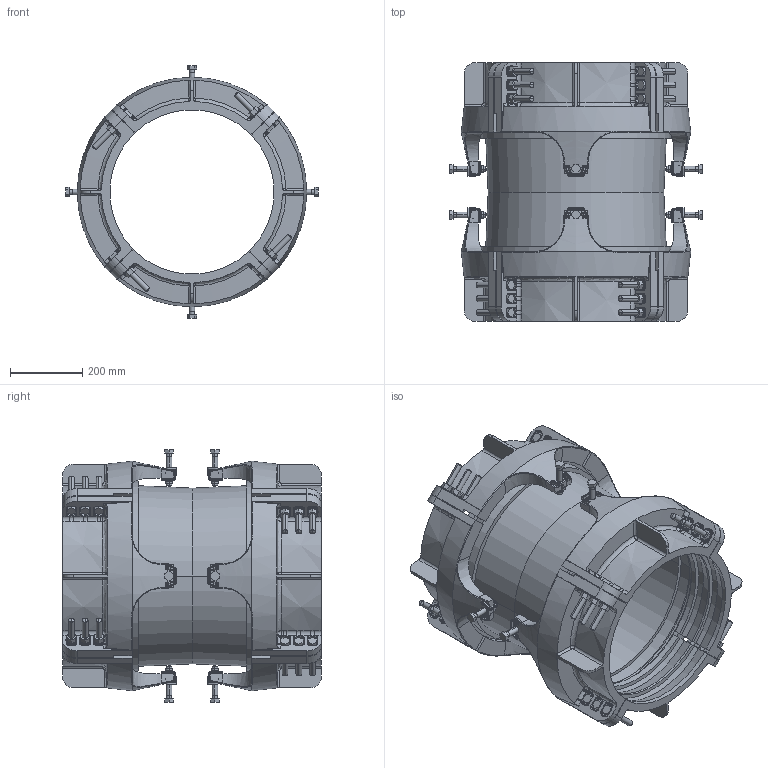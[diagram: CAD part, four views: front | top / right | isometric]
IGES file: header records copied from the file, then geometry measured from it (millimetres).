
Start section:  PTC IGES file: 355_coup.igs
Global section: file name: 355_coup.igs; native system: Pro/ENGINEER by Parametric Technology Corporation; preprocessor: 2006020; author: mfairey; organization: Unknown; date: 170508.101625; units: millimetre
Bounding box: 699.5 x 715 x 699.5 mm (x, y, z)
Surface area: 4993043.1 mm2 (no closed solid volume)
Topology: 0 solids, 0 shells, 3390 faces, 16600 edges, 16536 vertices
Faces by surface type: revolution 2044, bspline 1346
